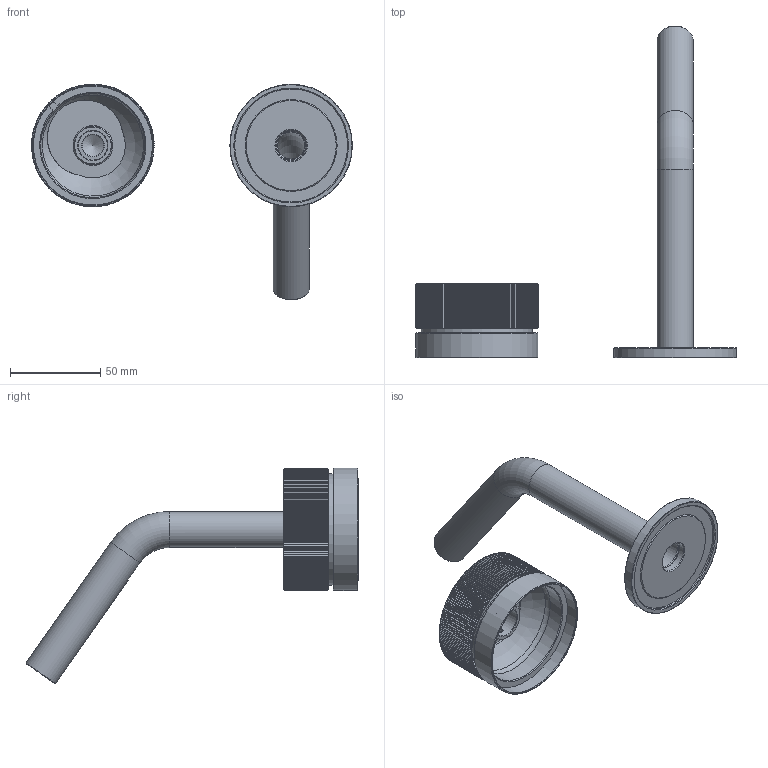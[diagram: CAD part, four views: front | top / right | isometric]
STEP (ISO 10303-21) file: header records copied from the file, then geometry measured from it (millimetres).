
FILE_DESCRIPTION(/* description */ ('Unknown'),/* implementation_level */ '2;1');
FILE_NAME(/* name */ 'RE003L',/* time_stamp */ '2023-07-04T11:00:31+02:00',/* author */ ('Unknown'),/* organization */ ('Unknown'),/* preprocessor_version */ 'ST-DEVELOPER v18.102',/* originating_system */ 'Solid Edge',/* authorisation */ 'Unknown');
FILE_SCHEMA (('AUTOMOTIVE_DESIGN {1 0 10303 214 3 1 1}'));
Length unit declared in the file: millimetre
Products named in the file (14): RE003L; RE003LEXT_oa_0; RE013L_oa_1; RE013-03; RE013L-01; 44.3256.450; 44.3256.450-1; 44.3256.450-2; 44.3256.450-3; 44.3256.450-4; RE006EXT_oa_2; RE006-03; RE006-04; RE006-023_oa_3
Assembly tree (13 placements, depth 5):
  RE003L
    RE003LEXT_oa_0
      RE013L_oa_1
        RE013-03
        RE013L-01
        44.3256.450
          44.3256.450-1
          44.3256.450-2
          44.3256.450-3
          44.3256.450-4
      RE006EXT_oa_2
        RE006-03
        RE006-04
        RE006-023_oa_3
Bounding box: 178 x 184.18 x 119.58 mm (x, y, z)
Volume: 73438.8 mm3; surface area: 67604.3 mm2
Topology: 8 solids, 8 shells, 1171 faces, 2644 edges, 1510 vertices
Faces by surface type: plane 501, cone 399, cylinder 230, torus 21, bspline 18, sphere 2
Full cylindrical faces by diameter (mm): 3.242 x2, 5 x2, 6 x1, 11.027 x2, 12 x1, 12.159 x1, 12.196 x1, 12.45 x1, 13.464 x1, 14.577 x1, 15 x2, 15.033 x1, 15.218 x1, 15.229 x1, 15.417 x2, 16 x1, 16.2 x1, 16.3 x1, 16.5 x2, 16.75 x1, 16.917 x1, 18 x1, 20 x2, 21 x1, 58 x1, 62 x1, 62.7 x1, 65 x1, 66 x1, 68 x2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
Entity records: 40587 total; most frequent: CARTESIAN_POINT 8039, ORIENTED_EDGE 5030, DIRECTION 5011, EDGE_CURVE 2515, AXIS2_PLACEMENT_3D 2110, VERTEX_POINT 1479, FACE_BOUND 1302, EDGE_LOOP 1298
